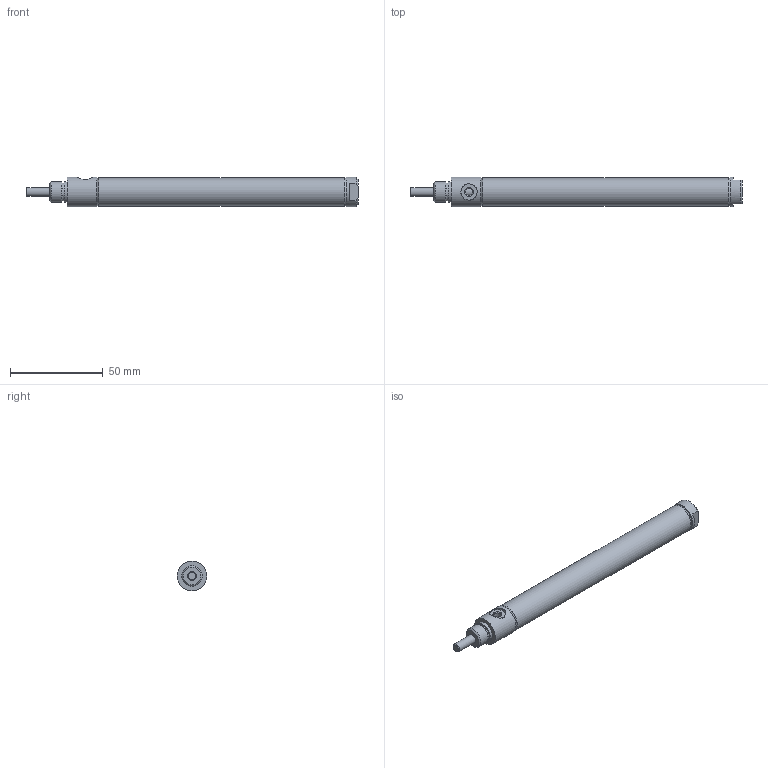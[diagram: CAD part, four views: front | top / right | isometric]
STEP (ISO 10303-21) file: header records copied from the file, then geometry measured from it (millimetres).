
FILE_DESCRIPTION( ( 'STEP AP214' ), '1' );
FILE_NAME( 'p:/temp/worker_411/temp/exporttempdir_80208_67_4z98u/format_0/0563D01-04A-03.stp', '2020-05-07T13:40:00', ( 'License CC BY-ND 4.0' ), ( 'CADENAS' ), ' ', 'PARTsolutions', ' ' );
FILE_SCHEMA( ( 'AUTOMOTIVE_DESIGN { 1 0 10303 214 1 1 1 1 }' ) );
Length unit declared in the file: inch
Products named in the file (3): 0563D01-04A-03; _0563D01-04A-030b; _0563D01-04A-030r
Assembly tree (2 placements, depth 2):
  0563D01-04A-03
    _0563D01-04A-030b
    _0563D01-04A-030r
Bounding box: 178.59 x 15.88 x 15.88 mm (x, y, z)
Volume: 15624.3 mm3; surface area: 18932.4 mm2
Topology: 2 solids, 2 shells, 42 faces, 77 edges, 49 vertices
Faces by surface type: plane 18, cylinder 15, cone 9
Full cylindrical faces by diameter (mm): 3.967 x2, 4.775 x3, 4.826 x1, 8.738 x1, 9.601 x1, 11.1 x1, 11.112 x1, 14.287 x2, 15.392 x1, 15.875 x2
Entity records: 1446 total; most frequent: CARTESIAN_POINT 289, DIRECTION 176, ORIENTED_EDGE 106, AXIS2_PLACEMENT_3D 84, EDGE_LOOP 78, FACE_OUTER_BOUND 57, EDGE_CURVE 53, VERTEX_POINT 47
